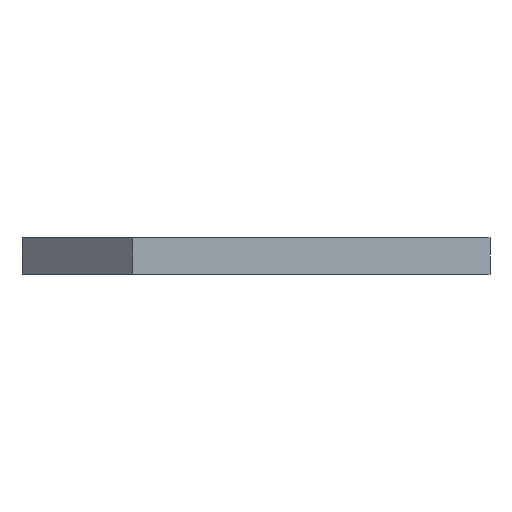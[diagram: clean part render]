
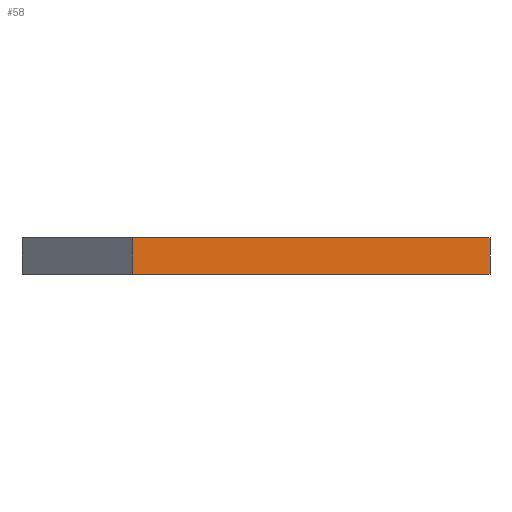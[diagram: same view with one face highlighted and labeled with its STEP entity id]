
A CAD part, left-side view. The second image highlights one B-rep face of the part: STEP entity #58.
In plain terms, the highlighted planar face has unit normal (-0.707, -0.707, 0).
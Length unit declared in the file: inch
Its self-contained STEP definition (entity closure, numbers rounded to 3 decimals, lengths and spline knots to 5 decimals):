
#58=ADVANCED_FACE('',(#133),#134,.T.);
#133=FACE_OUTER_BOUND('',#251,.T.);
#134=PLANE('',#252);
#251=EDGE_LOOP('',(#446,#447,#448,#449));
#252=AXIS2_PLACEMENT_3D('',#450,#451,#452);
#446=ORIENTED_EDGE('',*,*,#652,.T.);
#447=ORIENTED_EDGE('',*,*,#653,.F.);
#448=ORIENTED_EDGE('',*,*,#654,.T.);
#449=ORIENTED_EDGE('',*,*,#655,.T.);
#450=CARTESIAN_POINT('',(-1.85419,1.85419,0.0));
#451=DIRECTION('',(-0.707,-0.707,0.0));
#452=DIRECTION('',(0.707,-0.707,0.0));
#652=EDGE_CURVE('',#763,#764,#765,.T.);
#653=EDGE_CURVE('',#766,#764,#767,.T.);
#654=EDGE_CURVE('',#766,#768,#769,.T.);
#655=EDGE_CURVE('',#768,#763,#770,.T.);
#763=VERTEX_POINT('',#938);
#764=VERTEX_POINT('',#939);
#765=LINE('',#940,#941);
#766=VERTEX_POINT('',#942);
#767=LINE('',#943,#944);
#768=VERTEX_POINT('',#945);
#769=LINE('',#946,#947);
#770=LINE('',#948,#949);
#938=CARTESIAN_POINT('',(0.0,0.0,0.375));
#939=CARTESIAN_POINT('',(-3.70838,3.70837,0.375));
#940=CARTESIAN_POINT('',(-3.70838,3.70837,0.375));
#941=VECTOR('',#1194,1.0);
#942=CARTESIAN_POINT('',(-3.70838,3.70837,0.0));
#943=CARTESIAN_POINT('',(-3.70838,3.70837,0.0));
#944=VECTOR('',#1195,1.0);
#945=CARTESIAN_POINT('',(0.0,0.0,0.0));
#946=CARTESIAN_POINT('',(-3.70838,3.70837,0.0));
#947=VECTOR('',#1196,1.0);
#948=CARTESIAN_POINT('',(0.0,0.0,0.0));
#949=VECTOR('',#1197,1.0);
#1194=DIRECTION('',(-0.707,0.707,0.0));
#1195=DIRECTION('',(0.0,0.0,1.0));
#1196=DIRECTION('',(0.707,-0.707,0.0));
#1197=DIRECTION('',(0.0,0.0,1.0));
